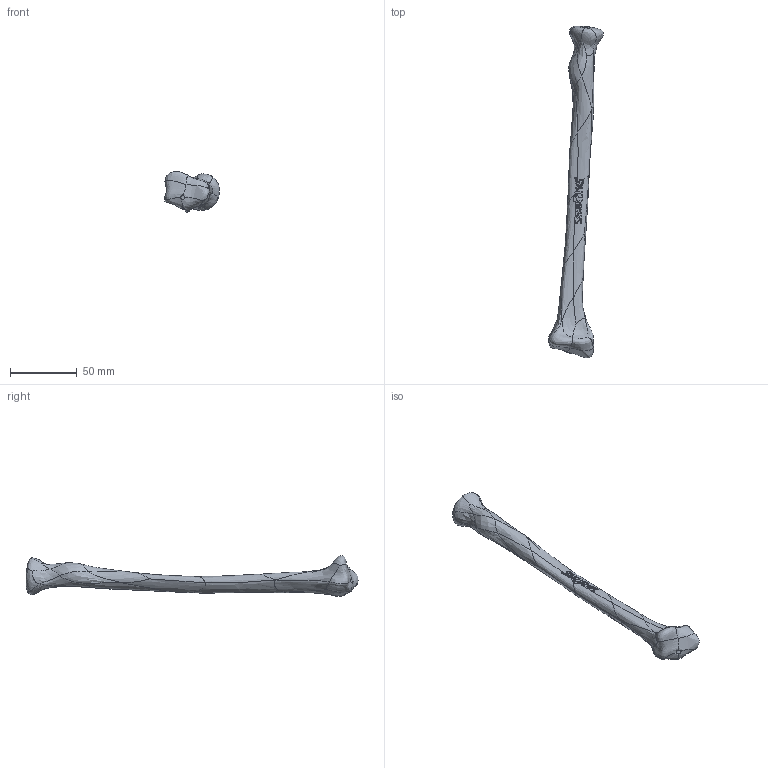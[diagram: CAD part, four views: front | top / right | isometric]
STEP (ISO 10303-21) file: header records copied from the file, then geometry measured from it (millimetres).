
FILE_DESCRIPTION (( 'STEP AP203' ), '1' );
FILE_NAME ('3407.STEP', '2025-06-10T19:30:53', ( '' ), ( '' ), 'SwSTEP 2.0', 'SolidWorks 2024', '' );
FILE_SCHEMA (( 'CONFIG_CONTROL_DESIGN' ));
Length unit declared in the file: millimetre
Products named in the file (1): 3407
Bounding box: 41.12 x 248.39 x 30.56 mm (x, y, z)
Volume: 54102.9 mm3; surface area: 14126.7 mm2
Topology: 1 solids, 1 shells, 309 faces, 802 edges, 501 vertices
Faces by surface type: bspline 305, plane 4
Entity records: 20353 total; most frequent: CARTESIAN_POINT 15300, ORIENTED_EDGE 1604, B_SPLINE_CURVE_WITH_KNOTS 802, EDGE_CURVE 802, VERTEX_POINT 501, EDGE_LOOP 315, FACE_OUTER_BOUND 309, ADVANCED_FACE 309
